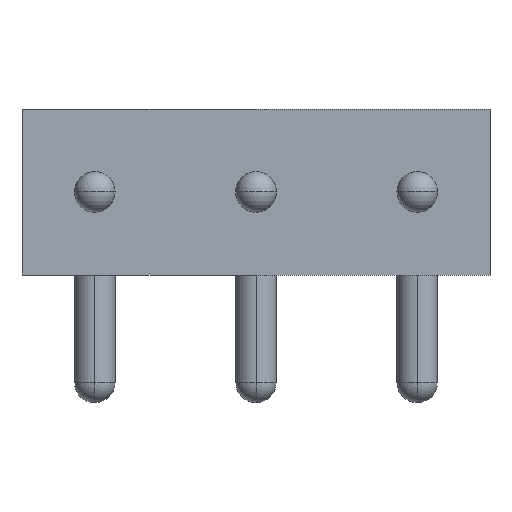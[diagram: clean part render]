
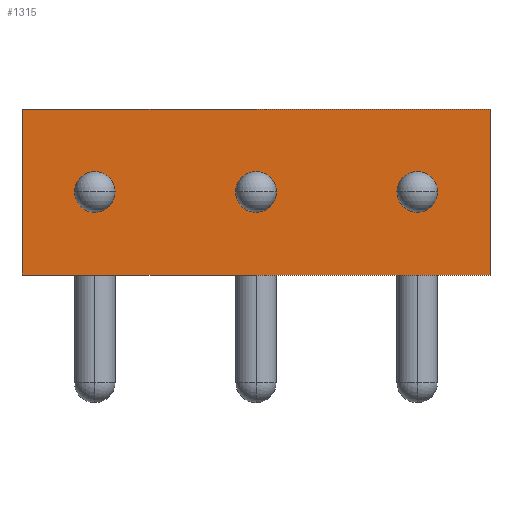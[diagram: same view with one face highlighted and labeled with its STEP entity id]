
A CAD part, top view. The second image highlights one B-rep face of the part: STEP entity #1315.
In plain terms, the highlighted planar face has unit normal (0, 0, 1).
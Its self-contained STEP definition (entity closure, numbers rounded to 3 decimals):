
#1192 = CARTESIAN_POINT ( 'NONE',  ( 6.225, 0., 6.5 ) ) ;
#1193 = VERTEX_POINT ( 'NONE', #1192 ) ;
#1210 = CARTESIAN_POINT ( 'NONE',  ( 6.225, 2.61, 6.5 ) ) ;
#1211 = VERTEX_POINT ( 'NONE', #1210 ) ;
#1218 = CARTESIAN_POINT ( 'NONE',  ( 6.225, 2.61, 6.5 ) ) ;
#1219 = DIRECTION ( 'NONE',  ( 0., -1., 0. ) ) ;
#1220 = VECTOR ( 'NONE', #1219, 1000. ) ;
#1221 = LINE ( 'NONE', #1218, #1220 ) ;
#1222 = EDGE_CURVE ( 'NONE', #1211, #1193, #1221, .T. ) ;
#1263 = CARTESIAN_POINT ( 'NONE',  ( -1.145, 0., 6.5 ) ) ;
#1264 = VERTEX_POINT ( 'NONE', #1263 ) ;
#1271 = CARTESIAN_POINT ( 'NONE',  ( -1.145, 2.61, 6.5 ) ) ;
#1272 = VERTEX_POINT ( 'NONE', #1271 ) ;
#1273 = CARTESIAN_POINT ( 'NONE',  ( -1.145, 2.61, 6.5 ) ) ;
#1274 = DIRECTION ( 'NONE',  ( 0., -1., 0. ) ) ;
#1275 = VECTOR ( 'NONE', #1274, 1000. ) ;
#1276 = LINE ( 'NONE', #1273, #1275 ) ;
#1277 = EDGE_CURVE ( 'NONE', #1272, #1264, #1276, .T. ) ;
#1294 = CARTESIAN_POINT ( 'NONE',  ( -1.145, 0., 6.5 ) ) ;
#1295 = DIRECTION ( 'NONE',  ( 1., 0., 0. ) ) ;
#1296 = VECTOR ( 'NONE', #1295, 1000. ) ;
#1297 = LINE ( 'NONE', #1294, #1296 ) ;
#1298 = EDGE_CURVE ( 'NONE', #1264, #1193, #1297, .T. ) ;
#1299 = ORIENTED_EDGE ( 'NONE', *, *, #1298, .T. ) ;
#1300 = ORIENTED_EDGE ( 'NONE', *, *, #1222, .F. ) ;
#1301 = CARTESIAN_POINT ( 'NONE',  ( -1.145, 2.61, 6.5 ) ) ;
#1302 = DIRECTION ( 'NONE',  ( 1., 0., 0. ) ) ;
#1303 = VECTOR ( 'NONE', #1302, 1000. ) ;
#1304 = LINE ( 'NONE', #1301, #1303 ) ;
#1305 = EDGE_CURVE ( 'NONE', #1272, #1211, #1304, .T. ) ;
#1306 = ORIENTED_EDGE ( 'NONE', *, *, #1305, .F. ) ;
#1307 = ORIENTED_EDGE ( 'NONE', *, *, #1277, .T. ) ;
#1308 = EDGE_LOOP ( 'NONE', ( #1299, #1300, #1306, #1307 ) ) ;
#1309 = FACE_OUTER_BOUND ( 'NONE', #1308, .T. ) ;
#1310 = CARTESIAN_POINT ( 'NONE',  ( -1.145, 2.61, 6.5 ) ) ;
#1311 = DIRECTION ( 'NONE',  ( 0., 0., -1. ) ) ;
#1312 = DIRECTION ( 'NONE',  ( -1., 0., 0. ) ) ;
#1313 = AXIS2_PLACEMENT_3D ( 'NONE', #1310, #1311, #1312 ) ;
#1314 = PLANE ( 'NONE', #1313 ) ;
#1315 = ADVANCED_FACE ( 'NONE', ( #1309 ), #1314, .F. ) ;
